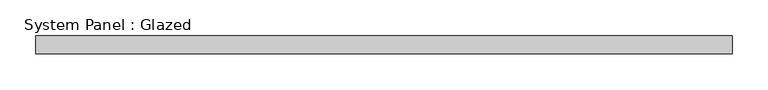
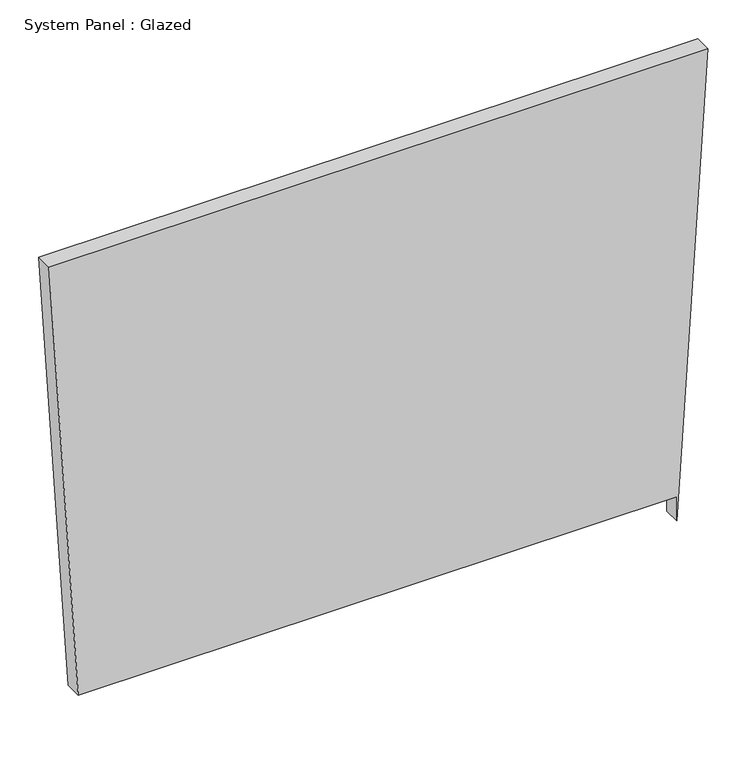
"""IFC4 building model written with IfcOpenShell, lengths in millimetres: plate geometry, System Panel : Glazed."""

from ifc_helpers import new_model, si_unit, frame, origin, place, context, project, spatial, polyline, outline, extrude, source, transform, mapped, element, save


def system_panel_glazed_ac056b50(model_context):
    return source(origin(), model_context, "Body", "SweptSolid", [
        extrude(outline(polyline([(38.1, 442.6409067), (0.0, 442.6409067), (723.4631103, 488.316934), (723.4639607, -488.316934), (38.1, -445.0463062), (38.1, 442.6409067)])), frame((0.0, 19.05, 0.0), z_axis=(0.0, 1.0, 0.0), x_axis=(0.0, 0.0, 1.0)), (0.0, 0.0, 1.0), 25.4),
    ])


if __name__ == "__main__":
    model = new_model("IFC4")
    model_context = context("Model", 3, world=origin())
    ifc_project = project(units=[si_unit("LENGTHUNIT", "METRE", prefix="MILLI")], contexts=[model_context])
    site = spatial("IfcSite", under=ifc_project)
    building = spatial("IfcBuilding", under=site)
    placement = place(None, origin())
    system_panel_glazed_shape = system_panel_glazed_ac056b50(model_context)
    element("IfcPlate", 1, ObjectType="System Panel : Glazed", at=placement, inside=building, context=model_context, shape_type="MappedRepresentation", body=[
        mapped(system_panel_glazed_shape, transform((0.0, 0.0, 0.0), x_axis=(1.0, 0.0, 0.0), y_axis=(0.0, 1.0, 0.0), z_axis=(0.0, 0.0, 1.0))),
    ])
    save(model, "model.ifc")
